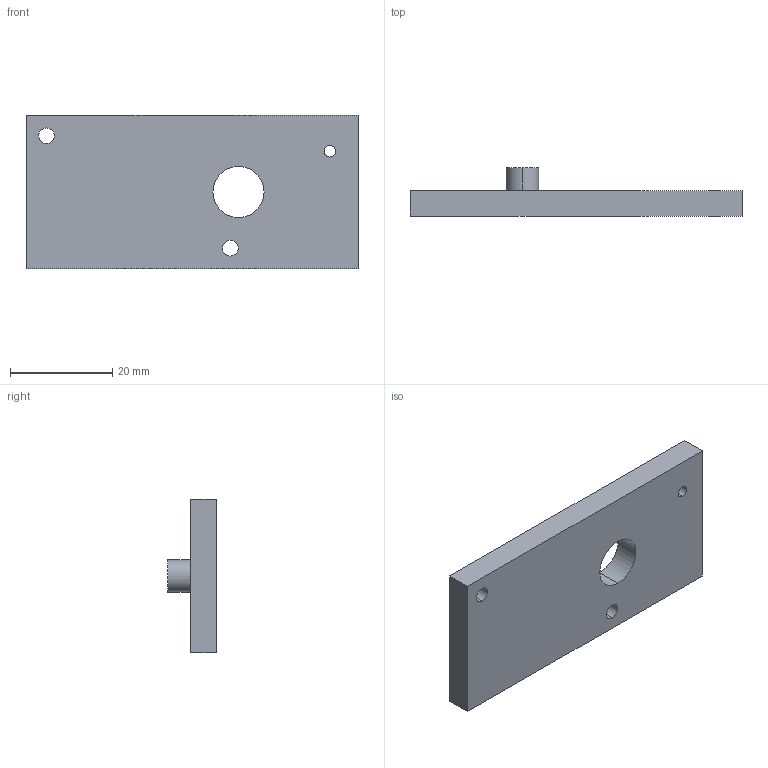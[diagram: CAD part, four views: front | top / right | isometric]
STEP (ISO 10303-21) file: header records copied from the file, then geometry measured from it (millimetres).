
FILE_DESCRIPTION (( 'STEP AP214' ), '1' );
FILE_NAME ('Gratting base.STEP', '2021-02-04T23:11:07', ( '' ), ( '' ), 'SwSTEP 2.0', 'SolidWorks 2020', '' );
FILE_SCHEMA (( 'AUTOMOTIVE_DESIGN' ));
Length unit declared in the file: millimetre
Products named in the file (1): Gratting base
Bounding box: 65 x 9.5 x 30 mm (x, y, z)
Volume: 8520.6 mm3; surface area: 5256.8 mm2
Topology: 1 solids, 1 shells, 23 faces, 54 edges, 36 vertices
Faces by surface type: cylinder 14, plane 9
Entity records: 759 total; most frequent: DIRECTION 130, CARTESIAN_POINT 114, ORIENTED_EDGE 108, EDGE_CURVE 54, AXIS2_PLACEMENT_3D 52, VERTEX_POINT 36, EDGE_LOOP 34, CIRCLE 28
